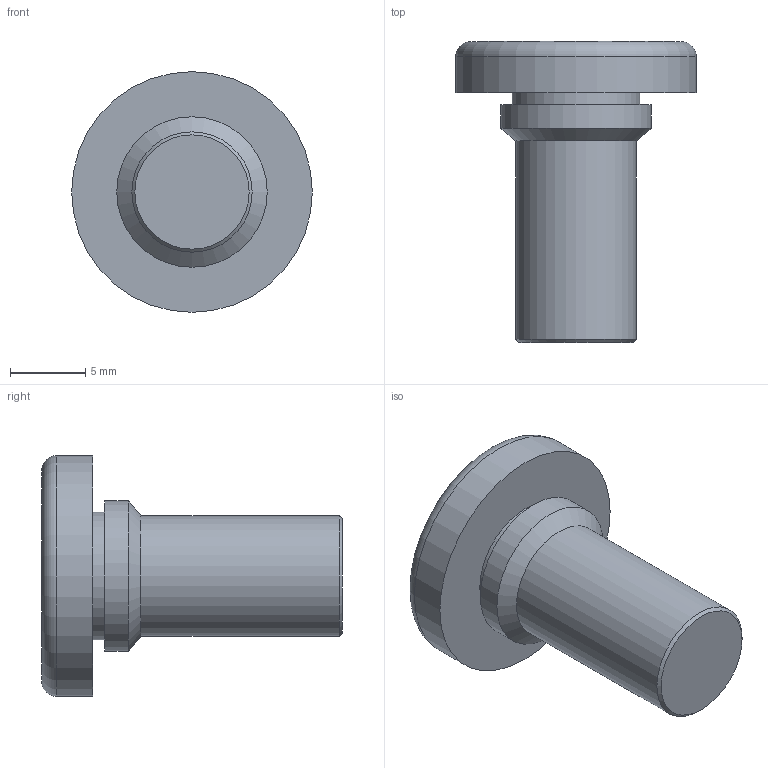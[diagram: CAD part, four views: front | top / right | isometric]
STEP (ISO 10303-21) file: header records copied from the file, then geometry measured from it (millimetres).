
FILE_DESCRIPTION(/* description */ (''),/* implementation_level */ '2;1');
FILE_NAME(/* name */ 'C:\Users\keval.kumar\Desktop\Fastit\Press Screw\M8\Press Screw_M8 x20.stp',/* time_stamp */ '2024-03-13T14:08:48+06:00',/* author */ ('keval.kumar'),/* organization */ (''),/* preprocessor_version */ 'ST-DEVELOPER v18.1',/* originating_system */ 'Autodesk Inventor 2022',/* authorisation */ '');
FILE_SCHEMA (('AUTOMOTIVE_DESIGN { 1 0 10303 214 3 1 1 }'));
Length unit declared in the file: millimetre
Products named in the file (1): Press Screw_M8 x20
Bounding box: 16 x 20 x 16 mm (x, y, z)
Volume: 1567.8 mm3; surface area: 1007.4 mm2
Topology: 1 solids, 1 shells, 11 faces, 19 edges, 12 vertices
Faces by surface type: cylinder 4, plane 4, cone 2, torus 1
Full cylindrical faces by diameter (mm): 8 x1, 8.5 x1, 10 x1, 16 x1
Entity records: 313 total; most frequent: DIRECTION 56, CARTESIAN_POINT 43, ORIENTED_EDGE 38, AXIS2_PLACEMENT_3D 25, EDGE_CURVE 19, EDGE_LOOP 13, CIRCLE 13, VERTEX_POINT 12
